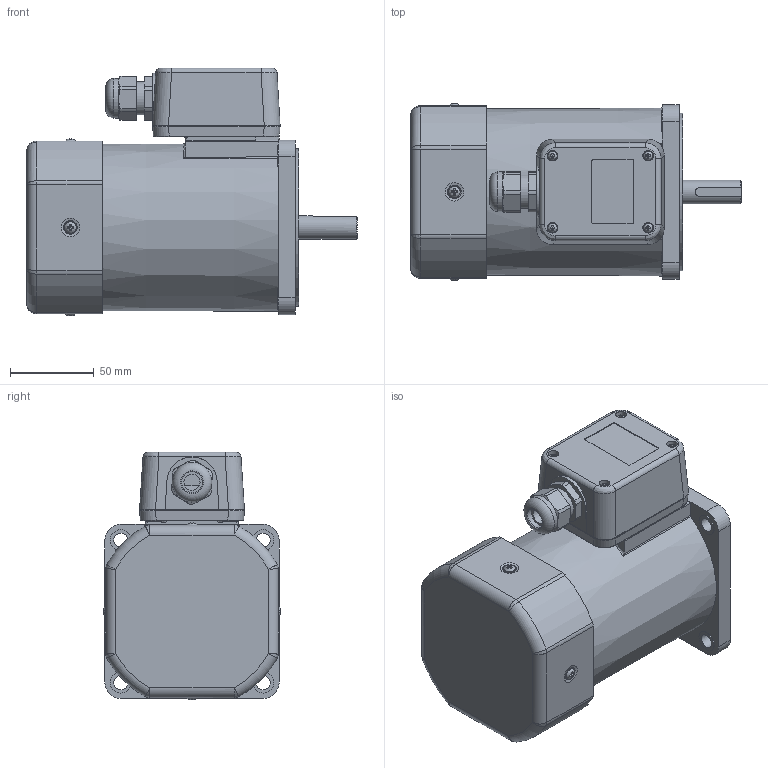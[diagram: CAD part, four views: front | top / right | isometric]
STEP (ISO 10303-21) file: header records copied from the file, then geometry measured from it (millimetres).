
FILE_DESCRIPTION((''),'2;1');
FILE_NAME('D:\작업\흐힠~\3D 모델링\S10I200K_-T.stp','2014-04-04T18:58:40',('jy-jung'),(''),'Autodesk Inventor 2011','Autodesk Inventor 2011','');
FILE_SCHEMA(('AUTOMOTIVE_DESIGN { 1 0 10303 214 1 1 1 1 }'));
Length unit declared in the file: millimetre
Products named in the file (1): S10I200D_-T.0001
Bounding box: 197 x 105.57 x 147.78 mm (x, y, z)
Volume: 1360509 mm3; surface area: 138752.5 mm2
Topology: 1 solids, 10 shells, 533 faces, 1324 edges, 830 vertices
Faces by surface type: plane 261, cylinder 148, bspline 61, torus 40, cone 23
Full cylindrical faces by diameter (mm): 2.55 x2, 4 x4, 5 x4, 5.6 x4, 6.3 x4, 7 x4, 8.5 x4, 12.5 x5, 14 x1, 15 x1, 20 x2, 21 x1, 23.6 x1, 43 x1, 94 x1, 98 x1
Entity records: 18408 total; most frequent: CARTESIAN_POINT 6212, ORIENTED_EDGE 2338, DIRECTION 2280, EDGE_CURVE 1169, AXIS2_PLACEMENT_3D 835, VERTEX_POINT 790, EDGE_LOOP 681, VECTOR 610
